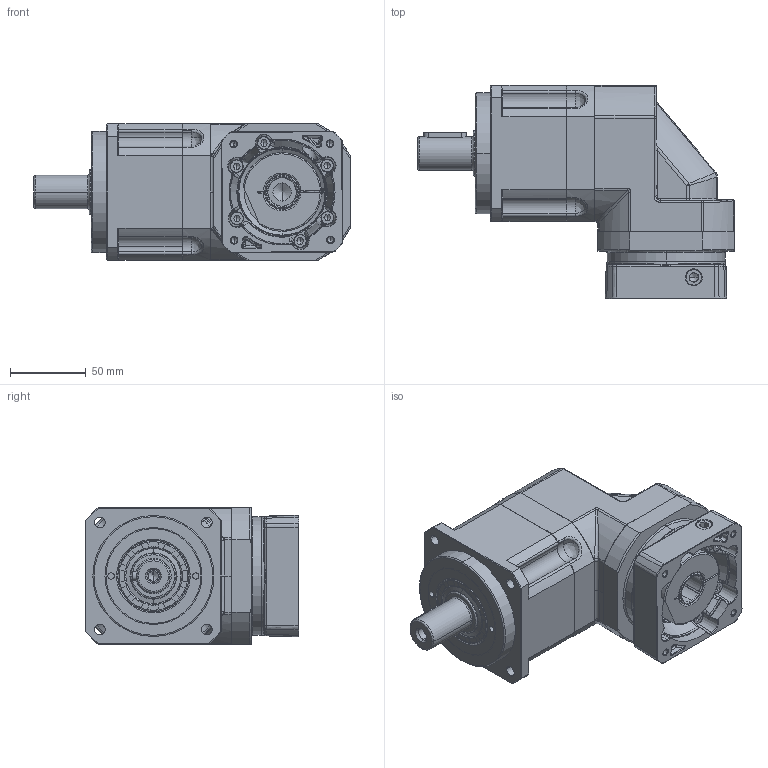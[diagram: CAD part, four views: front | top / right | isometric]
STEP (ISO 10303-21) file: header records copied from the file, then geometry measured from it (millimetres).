
FILE_DESCRIPTION (( 'STEP AP214' ), '1' );
FILE_NAME ('PAR090-L1-S2-P1 19-70-90-M5-45.STEP', '2025-02-15T05:54:44', ( '微软用户' ), ( '微软中国' ), 'SwSTEP 2.0', 'SolidWorks 2021', '' );
FILE_SCHEMA (( 'AUTOMOTIVE_DESIGN' ));
Length unit declared in the file: millimetre
Products named in the file (4): PAR090D.STEP; PAR090-L1-S2-P1 19-70-90-M5-45; 6-PAR090F_________step_stp_stp.stp.STEP; PAR090D-L1-S2-19-70-90-M5-45.STEP
Assembly tree (4 placements, depth 2):
  PAR090-L1-S2-P1 19-70-90-M5-45
    PAR090D-L1-S2-19-70-90-M5-45.STEP
    6-PAR090F_________step_stp_stp.stp.STEP
    PAR090D.STEP  x2
Bounding box: 209 x 141 x 90 mm (x, y, z)
Volume: 237570.7 mm3; surface area: 212000.3 mm2
Topology: 2 solids, 34 shells, 1443 faces, 3589 edges, 2257 vertices
Faces by surface type: plane 409, cylinder 400, bspline 372, cone 256, torus 6
Entity records: 80797 total; most frequent: CARTESIAN_POINT 50121, ORIENTED_EDGE 6898, DIRECTION 5494, EDGE_CURVE 3482, VERTEX_POINT 2211, AXIS2_PLACEMENT_3D 2183, EDGE_LOOP 1546, FACE_OUTER_BOUND 1414
